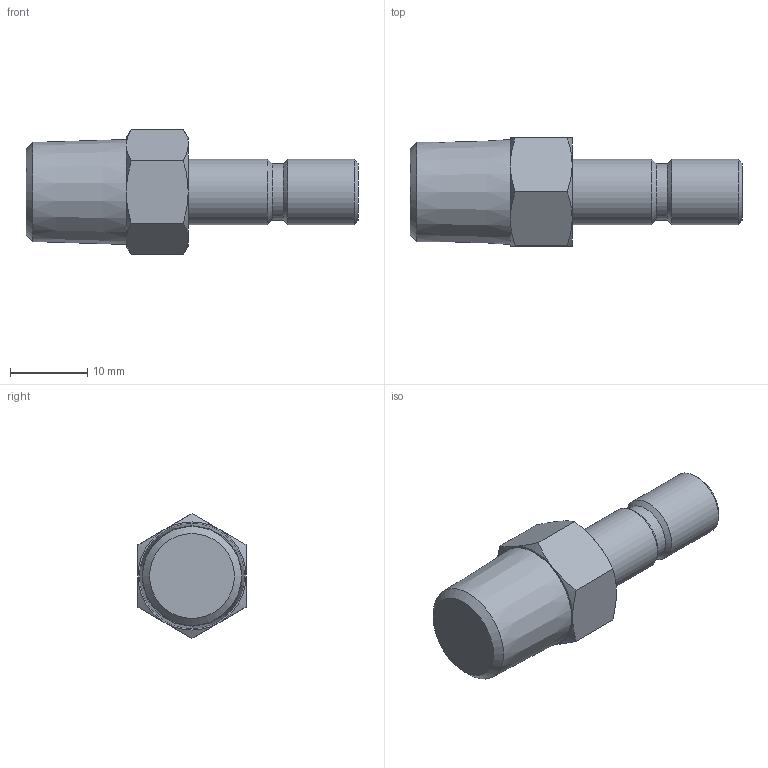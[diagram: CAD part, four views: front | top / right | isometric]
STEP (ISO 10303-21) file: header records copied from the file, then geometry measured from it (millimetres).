
FILE_DESCRIPTION(/* description */ (''),/* implementation_level */ '2;1');
FILE_NAME(/* name */ 'E:\2013年度版　3D-DATA\【20】 HI-COCK ONE-TOUCH COUPLING\[01] NIPPLE\[05] H-20P (R1／4).stp',/* time_stamp */ '2013-08-05T15:21:46+09:00',/* author */ ('takahashi-pc2'),/* organization */ (''),/* preprocessor_version */ 'ST-DEVELOPER v15.2',/* originating_system */ 'Autodesk Inventor 2014',/* authorisation */ '');
FILE_SCHEMA (('AUTOMOTIVE_DESIGN { 1 0 10303 214 3 1 1 }'));
Length unit declared in the file: millimetre
Products named in the file (1): [05] H-20P (R1／4)
Bounding box: 43 x 14 x 16.17 mm (x, y, z)
Volume: 4314.4 mm3; surface area: 1792.5 mm2
Topology: 1 solids, 1 shells, 30 faces, 61 edges, 35 vertices
Faces by surface type: cone 17, plane 10, cylinder 3
Full cylindrical faces by diameter (mm): 7.3 x1, 8.45 x2
Entity records: 719 total; most frequent: CARTESIAN_POINT 165, DIRECTION 112, ORIENTED_EDGE 104, AXIS2_PLACEMENT_3D 53, EDGE_CURVE 52, EDGE_LOOP 40, VERTEX_POINT 34, ADVANCED_FACE 30
